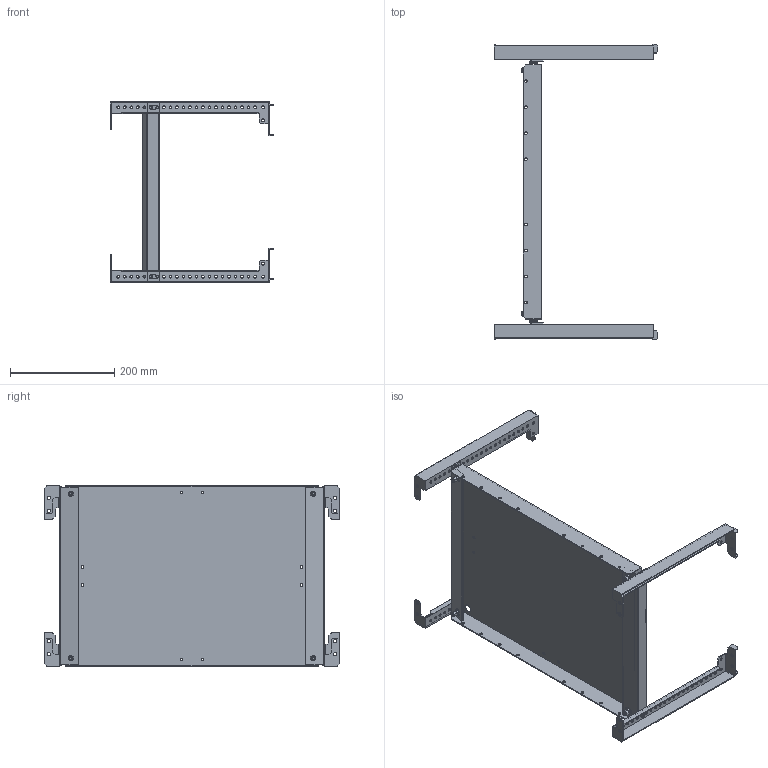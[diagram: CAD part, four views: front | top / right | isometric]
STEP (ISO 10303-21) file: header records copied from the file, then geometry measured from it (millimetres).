
FILE_DESCRIPTION (( 'STEP AP214' ), '1' );
FILE_NAME ('FO-00-MPU-035-060 Ïàíåëü ìîíòàæíàÿ óíèâåðñàëüíàÿ 350?600 ìì.STEP', '2025-07-16T07:06:33', ( '' ), ( '' ), 'SwSTEP 2.0', 'SolidWorks 2023', '' );
FILE_SCHEMA (( 'AUTOMOTIVE_DESIGN' ));
Length unit declared in the file: millimetre
Products named in the file (5): Панель монтажная универсальная 350×600 мм; Траверса горизонтальная; FO-00-MPU-035-060 Панель монтажная универсальная 350×600 мм; Траверса горизонтальнаяD; Винты DIN 912 4xM6x20 350x600
Assembly tree (6 placements, depth 2):
  FO-00-MPU-035-060 Панель монтажная универсальная 350×600 мм
    Панель монтажная универсальная 350×600 мм
    Траверса горизонтальная  x2
    Траверса горизонтальнаяD  x2
    Винты DIN 912 4xM6x20 350x600
Bounding box: 314.53 x 565.63 x 347 mm (x, y, z)
Volume: 726134.5 mm3; surface area: 744522.6 mm2
Topology: 9 solids, 13 shells, 1010 faces, 2744 edges, 1808 vertices
Faces by surface type: cylinder 468, plane 454, cone 56, torus 32
Entity records: 26087 total; most frequent: CARTESIAN_POINT 5387, DIRECTION 4400, ORIENTED_EDGE 4156, EDGE_CURVE 2078, AXIS2_PLACEMENT_3D 1609, VERTEX_POINT 1364, VECTOR 1182, LINE 1182
